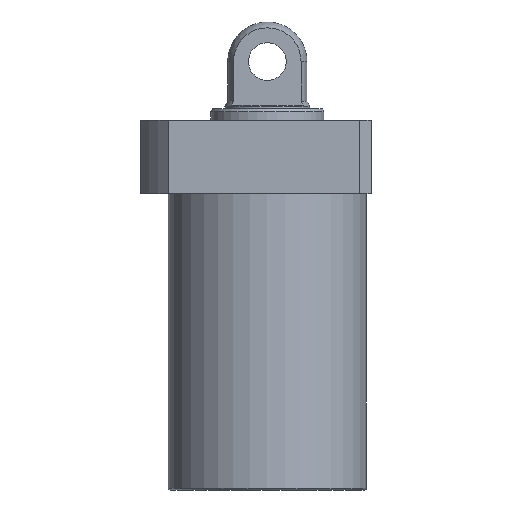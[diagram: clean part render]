
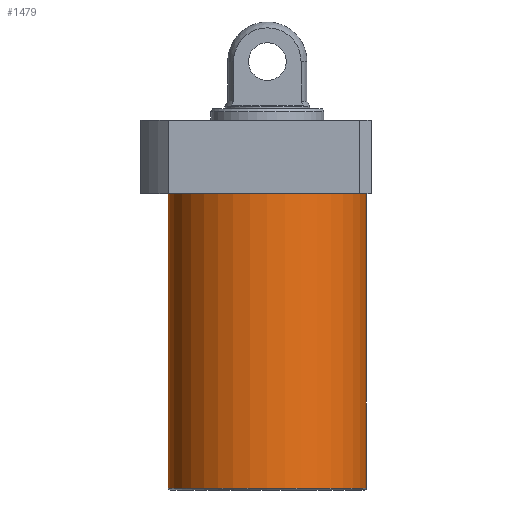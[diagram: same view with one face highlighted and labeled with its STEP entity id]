
A CAD part, front view. The second image highlights one B-rep face of the part: STEP entity #1479.
In plain terms, the highlighted cylindrical face has radius 52.5 mm (diameter 105 mm), a partial arc.
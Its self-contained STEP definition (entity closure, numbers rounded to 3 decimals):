
#58 = ORIENTED_EDGE ( 'NONE', *, *, #635, .T. ) ;
#116 = EDGE_CURVE ( 'NONE', #1001, #926, #1355, .T. ) ;
#256 = CARTESIAN_POINT ( 'NONE',  ( 52.5, 0., -176.5 ) ) ;
#270 = DIRECTION ( 'NONE',  ( 0., 0., 1. ) ) ;
#299 = DIRECTION ( 'NONE',  ( 1., 0., 0. ) ) ;
#319 = VECTOR ( 'NONE', #270, 1000. ) ;
#359 = ORIENTED_EDGE ( 'NONE', *, *, #1641, .F. ) ;
#403 = DIRECTION ( 'NONE',  ( 0., 0., 1. ) ) ;
#409 = LINE ( 'NONE', #256, #319 ) ;
#430 = DIRECTION ( 'NONE',  ( 0., 0., 1. ) ) ;
#463 = EDGE_CURVE ( 'NONE', #746, #1001, #409, .T. ) ;
#465 = CYLINDRICAL_SURFACE ( 'NONE', #1815, 52.5 ) ;
#582 = ORIENTED_EDGE ( 'NONE', *, *, #463, .T. ) ;
#635 = EDGE_CURVE ( 'NONE', #1628, #746, #771, .T. ) ;
#641 = DIRECTION ( 'NONE',  ( 1., 0., 0. ) ) ;
#715 = CARTESIAN_POINT ( 'NONE',  ( 52.5, 0., -19.5 ) ) ;
#746 = VERTEX_POINT ( 'NONE', #1586 ) ;
#771 = CIRCLE ( 'NONE', #1326, 52.5 ) ;
#810 = CARTESIAN_POINT ( 'NONE',  ( 0., 0., -176.5 ) ) ;
#862 = DIRECTION ( 'NONE',  ( 0., 0., 1. ) ) ;
#920 = CARTESIAN_POINT ( 'NONE',  ( -52.5, 0., -19.5 ) ) ;
#926 = VERTEX_POINT ( 'NONE', #920 ) ;
#992 = DIRECTION ( 'NONE',  ( -1., 0., 0. ) ) ;
#1001 = VERTEX_POINT ( 'NONE', #715 ) ;
#1059 = VECTOR ( 'NONE', #430, 1000. ) ;
#1137 = AXIS2_PLACEMENT_3D ( 'NONE', #1705, #1409, #299 ) ;
#1146 = CARTESIAN_POINT ( 'NONE',  ( 0., 0., -175.5 ) ) ;
#1272 = CARTESIAN_POINT ( 'NONE',  ( -52.5, 0., -176.5 ) ) ;
#1296 = EDGE_LOOP ( 'NONE', ( #359, #58, #582, #1427 ) ) ;
#1326 = AXIS2_PLACEMENT_3D ( 'NONE', #1146, #862, #992 ) ;
#1355 = CIRCLE ( 'NONE', #1137, 52.5 ) ;
#1409 = DIRECTION ( 'NONE',  ( 0., 0., -1. ) ) ;
#1427 = ORIENTED_EDGE ( 'NONE', *, *, #116, .T. ) ;
#1479 = ADVANCED_FACE ( 'NONE', ( #1541 ), #465, .T. ) ;
#1492 = CARTESIAN_POINT ( 'NONE',  ( -52.5, 0., -175.5 ) ) ;
#1541 = FACE_OUTER_BOUND ( 'NONE', #1296, .T. ) ;
#1586 = CARTESIAN_POINT ( 'NONE',  ( 52.5, 0., -175.5 ) ) ;
#1628 = VERTEX_POINT ( 'NONE', #1492 ) ;
#1641 = EDGE_CURVE ( 'NONE', #1628, #926, #1825, .T. ) ;
#1705 = CARTESIAN_POINT ( 'NONE',  ( 0., 0., -19.5 ) ) ;
#1815 = AXIS2_PLACEMENT_3D ( 'NONE', #810, #403, #641 ) ;
#1825 = LINE ( 'NONE', #1272, #1059 ) ;
